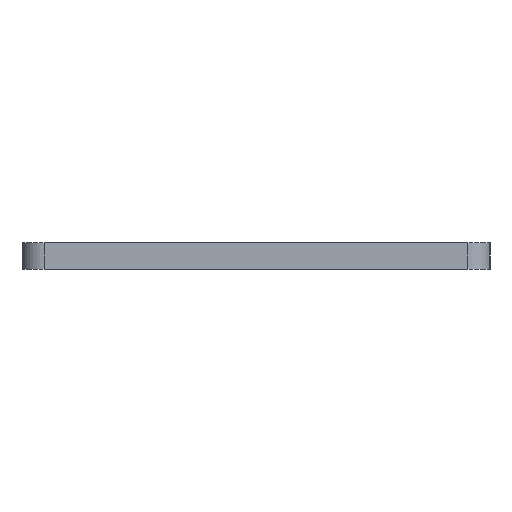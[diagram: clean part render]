
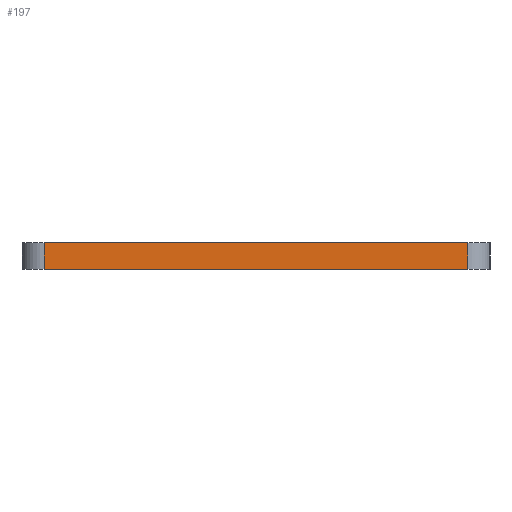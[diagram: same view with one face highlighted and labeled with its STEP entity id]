
A CAD part, left-side view. The second image highlights one B-rep face of the part: STEP entity #197.
In plain terms, the highlighted planar face has unit normal (-1, 0, 0).
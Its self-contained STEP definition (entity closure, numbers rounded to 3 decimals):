
#47 = CARTESIAN_POINT ( 'NONE',  ( -52., -15.797, 0. ) ) ;
#66 = LINE ( 'NONE', #47, #328 ) ;
#83 = DIRECTION ( 'NONE',  ( 0., 1., 0. ) ) ;
#130 = CARTESIAN_POINT ( 'NONE',  ( -52., -15.797, 0. ) ) ;
#197 = ADVANCED_FACE ( 'NONE', ( #305 ), #787, .T. ) ;
#203 = LINE ( 'NONE', #1290, #618 ) ;
#213 = VECTOR ( 'NONE', #960, 1000. ) ;
#228 = LINE ( 'NONE', #1029, #213 ) ;
#258 = CARTESIAN_POINT ( 'NONE',  ( -52., -15.797, 2. ) ) ;
#283 = EDGE_CURVE ( 'NONE', #308, #332, #66, .T. ) ;
#305 = FACE_OUTER_BOUND ( 'NONE', #645, .T. ) ;
#308 = VERTEX_POINT ( 'NONE', #130 ) ;
#328 = VECTOR ( 'NONE', #1080, 1000. ) ;
#332 = VERTEX_POINT ( 'NONE', #1280 ) ;
#340 = VERTEX_POINT ( 'NONE', #713 ) ;
#357 = VECTOR ( 'NONE', #83, 1000. ) ;
#384 = DIRECTION ( 'NONE',  ( -1., 0., 0. ) ) ;
#504 = EDGE_CURVE ( 'NONE', #1049, #340, #768, .T. ) ;
#511 = AXIS2_PLACEMENT_3D ( 'NONE', #1154, #384, #1044 ) ;
#512 = DIRECTION ( 'NONE',  ( 0., 0., -1. ) ) ;
#618 = VECTOR ( 'NONE', #512, 1000. ) ;
#645 = EDGE_LOOP ( 'NONE', ( #928, #1019, #665, #1085 ) ) ;
#665 = ORIENTED_EDGE ( 'NONE', *, *, #504, .T. ) ;
#713 = CARTESIAN_POINT ( 'NONE',  ( -52., 15.797, 2. ) ) ;
#768 = LINE ( 'NONE', #258, #357 ) ;
#787 = PLANE ( 'NONE',  #511 ) ;
#895 = EDGE_CURVE ( 'NONE', #1049, #308, #203, .T. ) ;
#928 = ORIENTED_EDGE ( 'NONE', *, *, #283, .F. ) ;
#960 = DIRECTION ( 'NONE',  ( 0., 0., -1. ) ) ;
#1001 = EDGE_CURVE ( 'NONE', #340, #332, #228, .T. ) ;
#1019 = ORIENTED_EDGE ( 'NONE', *, *, #895, .F. ) ;
#1029 = CARTESIAN_POINT ( 'NONE',  ( -52., 15.797, 2. ) ) ;
#1044 = DIRECTION ( 'NONE',  ( 0., -1., 0. ) ) ;
#1049 = VERTEX_POINT ( 'NONE', #1147 ) ;
#1080 = DIRECTION ( 'NONE',  ( 0., 1., 0. ) ) ;
#1085 = ORIENTED_EDGE ( 'NONE', *, *, #1001, .T. ) ;
#1147 = CARTESIAN_POINT ( 'NONE',  ( -52., -15.797, 2. ) ) ;
#1154 = CARTESIAN_POINT ( 'NONE',  ( -52., -15.797, 2. ) ) ;
#1280 = CARTESIAN_POINT ( 'NONE',  ( -52., 15.797, 0. ) ) ;
#1290 = CARTESIAN_POINT ( 'NONE',  ( -52., -15.797, 2. ) ) ;
